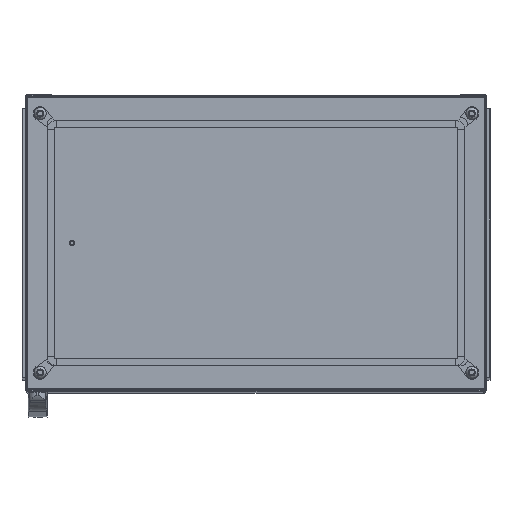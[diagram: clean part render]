
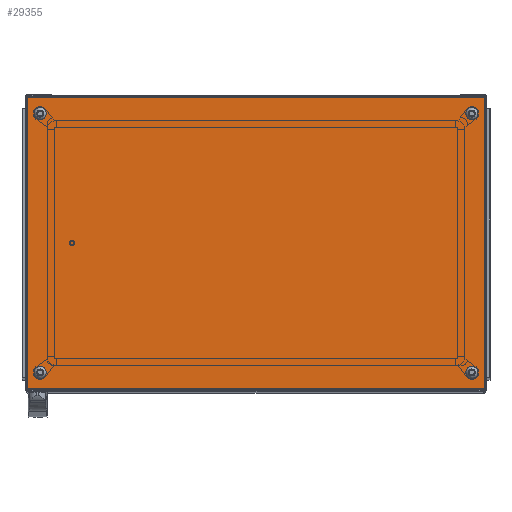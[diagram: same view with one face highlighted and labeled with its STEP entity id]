
A CAD part, top view. The second image highlights one B-rep face of the part: STEP entity #29355.
In plain terms, the highlighted planar face has unit normal (0, 0, 1).
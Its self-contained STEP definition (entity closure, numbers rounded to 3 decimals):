
#1409=CIRCLE('',#31477,6.);
#1410=CIRCLE('',#31478,6.);
#1411=CIRCLE('',#31479,6.);
#1412=CIRCLE('',#31480,6.);
#5317=ORIENTED_EDGE('',*,*,#12407,.F.);
#5318=ORIENTED_EDGE('',*,*,#12408,.F.);
#5319=ORIENTED_EDGE('',*,*,#12409,.F.);
#5320=ORIENTED_EDGE('',*,*,#12410,.F.);
#5321=ORIENTED_EDGE('',*,*,#12396,.T.);
#5322=ORIENTED_EDGE('',*,*,#12404,.T.);
#5323=ORIENTED_EDGE('',*,*,#12367,.F.);
#5324=ORIENTED_EDGE('',*,*,#12411,.F.);
#12367=EDGE_CURVE('',#16147,#16148,#19087,.T.);
#12396=EDGE_CURVE('',#16169,#16168,#19093,.T.);
#12404=EDGE_CURVE('',#16168,#16148,#19098,.T.);
#12407=EDGE_CURVE('',#16170,#16170,#1409,.T.);
#12408=EDGE_CURVE('',#16171,#16171,#1410,.T.);
#12409=EDGE_CURVE('',#16172,#16172,#1411,.T.);
#12410=EDGE_CURVE('',#16173,#16173,#1412,.T.);
#12411=EDGE_CURVE('',#16169,#16147,#19101,.T.);
#16147=VERTEX_POINT('',#45635);
#16148=VERTEX_POINT('',#45637);
#16168=VERTEX_POINT('',#45711);
#16169=VERTEX_POINT('',#45713);
#16170=VERTEX_POINT('',#45730);
#16171=VERTEX_POINT('',#45732);
#16172=VERTEX_POINT('',#45734);
#16173=VERTEX_POINT('',#45736);
#19087=LINE('',#45636,#21628);
#19093=LINE('',#45712,#21634);
#19098=LINE('',#45724,#21639);
#19101=LINE('',#45737,#21642);
#21628=VECTOR('',#36533,1000.);
#21634=VECTOR('',#36587,1000.);
#21639=VECTOR('',#36604,1000.);
#21642=VECTOR('',#36619,1000.);
#23867=EDGE_LOOP('',(#5317));
#23868=EDGE_LOOP('',(#5318));
#23869=EDGE_LOOP('',(#5319));
#23870=EDGE_LOOP('',(#5320));
#23871=EDGE_LOOP('',(#5321,#5322,#5323,#5324));
#26302=FACE_BOUND('',#23867,.T.);
#26303=FACE_BOUND('',#23868,.T.);
#26304=FACE_BOUND('',#23869,.T.);
#26305=FACE_BOUND('',#23870,.T.);
#26306=FACE_BOUND('',#23871,.T.);
#28394=PLANE('',#31476);
#29355=ADVANCED_FACE('',(#26302,#26303,#26304,#26305,#26306),#28394,.T.);
#31476=AXIS2_PLACEMENT_3D('',#45728,#36609,#36610);
#31477=AXIS2_PLACEMENT_3D('',#45729,#36611,#36612);
#31478=AXIS2_PLACEMENT_3D('',#45731,#36613,#36614);
#31479=AXIS2_PLACEMENT_3D('',#45733,#36615,#36616);
#31480=AXIS2_PLACEMENT_3D('',#45735,#36617,#36618);
#36533=DIRECTION('',(-1.,0.,0.));
#36587=DIRECTION('',(-1.,0.,0.));
#36604=DIRECTION('',(0.,-1.,0.));
#36609=DIRECTION('',(0.,0.,1.));
#36610=DIRECTION('',(1.,0.,0.));
#36611=DIRECTION('',(0.,0.,1.));
#36612=DIRECTION('',(1.,0.,0.));
#36613=DIRECTION('',(0.,0.,1.));
#36614=DIRECTION('',(1.,0.,0.));
#36615=DIRECTION('',(0.,0.,1.));
#36616=DIRECTION('',(1.,0.,0.));
#36617=DIRECTION('',(0.,0.,1.));
#36618=DIRECTION('',(1.,0.,0.));
#36619=DIRECTION('',(0.,-1.,0.));
#45635=CARTESIAN_POINT('',(396.5,-252.5,20.));
#45636=CARTESIAN_POINT('',(400.,-252.5,20.));
#45637=CARTESIAN_POINT('',(-396.5,-252.5,20.));
#45711=CARTESIAN_POINT('',(-396.5,252.5,20.));
#45712=CARTESIAN_POINT('',(400.,252.5,20.));
#45713=CARTESIAN_POINT('',(396.5,252.5,20.));
#45724=CARTESIAN_POINT('',(-396.5,255.5,20.));
#45728=CARTESIAN_POINT('',(-396.5,-252.5,20.));
#45729=CARTESIAN_POINT('',(374.5,-224.5,20.));
#45730=CARTESIAN_POINT('',(380.5,-224.5,20.));
#45731=CARTESIAN_POINT('',(-374.5,224.5,20.));
#45732=CARTESIAN_POINT('',(-368.5,224.5,20.));
#45733=CARTESIAN_POINT('',(374.5,224.5,20.));
#45734=CARTESIAN_POINT('',(380.5,224.5,20.));
#45735=CARTESIAN_POINT('',(-374.5,-224.5,20.));
#45736=CARTESIAN_POINT('',(-368.5,-224.5,20.));
#45737=CARTESIAN_POINT('',(396.5,255.5,20.));
